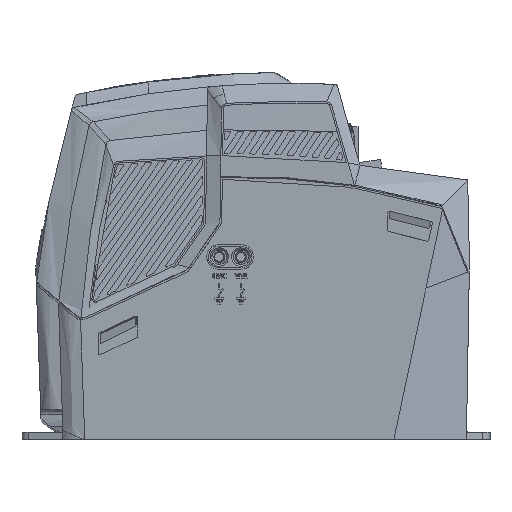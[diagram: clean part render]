
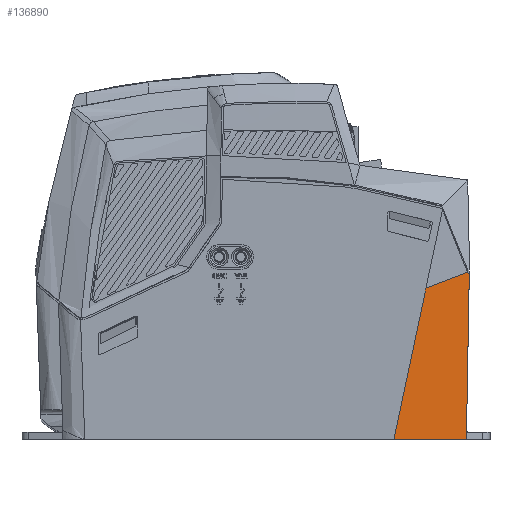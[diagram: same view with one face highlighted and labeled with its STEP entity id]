
A CAD part, left-side view. The second image highlights one B-rep face of the part: STEP entity #136890.
In plain terms, the highlighted free-form (B-spline) face has degree [2, 2] with [4, 4] control points.
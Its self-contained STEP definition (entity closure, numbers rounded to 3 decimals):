
#2 = CARTESIAN_POINT ( 'NONE',  ( -106.717, -2.814, 10.099 ) ) ;
#6267 = CARTESIAN_POINT ( 'NONE',  ( -112.231, 38.182, -20.79 ) ) ;
#7660 = CARTESIAN_POINT ( 'NONE',  ( -112.781, 14.198, 65.96 ) ) ;
#10418 = CARTESIAN_POINT ( 'NONE',  ( -110.007, -3.91, 72.886 ) ) ;
#16354 = EDGE_CURVE ( 'NONE', #238016, #183010, #78427, .T. ) ;
#18310 = CARTESIAN_POINT ( 'NONE',  ( -108.336, -3.353, 40.988 ) ) ;
#25772 = ORIENTED_EDGE ( 'NONE', *, *, #69755, .T. ) ;
#27385 = CARTESIAN_POINT ( 'NONE',  ( -106.881, 7.84, -20.79 ) ) ;
#28721 = B_SPLINE_SURFACE_WITH_KNOTS ( 'NONE', 2, 2, ( 
 ( #52612, #27385, #113152, #6267 ),
 ( #117293, #92021, #263574, #70939 ),
 ( #156704, #75074, #242491, #202999 ),
 ( #10418, #221345, #7660, #96191 ) ),
 .UNSPECIFIED., .F., .F., .F.,
 ( 3, 1, 3 ),
 ( 3, 1, 3 ),
 ( 0., 1.355, 2.711 ),
 ( 0., 0.5, 1. ),
 .UNSPECIFIED. ) ;
#29442 = CARTESIAN_POINT ( 'NONE',  ( -112.231, 38.182, -20.79 ) ) ;
#31081 = CARTESIAN_POINT ( 'NONE',  ( -105.098, -2.275, -20.79 ) ) ;
#31858 = VERTEX_POINT ( 'NONE', #108346 ) ;
#32442 = CARTESIAN_POINT ( 'NONE',  ( -109.853, 24.697, -20.79 ) ) ;
#32588 = VERTEX_POINT ( 'NONE', #131813 ) ;
#36389 = CARTESIAN_POINT ( 'NONE',  ( -110.073, -3.211, 71.877 ) ) ;
#40349 = CARTESIAN_POINT ( 'NONE',  ( -113.213, 26.217, 35.504 ) ) ;
#41189 = CARTESIAN_POINT ( 'NONE',  ( -112.624, 13.178, 66.33 ) ) ;
#42962 = B_SPLINE_CURVE_WITH_KNOTS ( 'NONE', 3,
 ( #31081, #77374, #32442, #99864 ),
 .UNSPECIFIED., .F., .F.,
 ( 4, 4 ),
 ( 0., 1. ),
 .UNSPECIFIED. ) ;
#52612 = CARTESIAN_POINT ( 'NONE',  ( -105.098, -2.275, -20.79 ) ) ;
#54382 = CARTESIAN_POINT ( 'NONE',  ( -110.098, -3.132, 72.073 ) ) ;
#56444 = CARTESIAN_POINT ( 'NONE',  ( -113.705, 20.234, 63.651 ) ) ;
#62282 = CARTESIAN_POINT ( 'NONE',  ( -110.147, -2.975, 72.464 ) ) ;
#69755 = EDGE_CURVE ( 'NONE', #32588, #183010, #255199, .T. ) ;
#70778 = CARTESIAN_POINT ( 'NONE',  ( -112.722, 32.199, 7.357 ) ) ;
#70939 = CARTESIAN_POINT ( 'NONE',  ( -112.6, 33.695, 0.32 ) ) ;
#73312 = CARTESIAN_POINT ( 'NONE',  ( -109.994, -3.665, 71.877 ) ) ;
#74087 = CARTESIAN_POINT ( 'NONE',  ( -110.073, -3.211, 71.877 ) ) ;
#75074 = CARTESIAN_POINT ( 'NONE',  ( -109.919, 3.554, 47.735 ) ) ;
#77374 = CARTESIAN_POINT ( 'NONE',  ( -107.475, 11.211, -20.79 ) ) ;
#78427 = B_SPLINE_CURVE_WITH_KNOTS ( 'NONE', 3,
 ( #214588, #70778, #40349, #155135 ),
 .UNSPECIFIED., .F., .F.,
 ( 4, 4 ),
 ( 0., 1. ),
 .UNSPECIFIED. ) ;
#92021 = CARTESIAN_POINT ( 'NONE',  ( -107.894, 6.411, 2.052 ) ) ;
#93021 = CARTESIAN_POINT ( 'NONE',  ( -110.073, -3.211, 71.877 ) ) ;
#93993 = ORIENTED_EDGE ( 'NONE', *, *, #228186, .F. ) ;
#96191 = CARTESIAN_POINT ( 'NONE',  ( -113.705, 20.234, 63.651 ) ) ;
#99864 = CARTESIAN_POINT ( 'NONE',  ( -112.231, 38.182, -20.79 ) ) ;
#104638 = ORIENTED_EDGE ( 'NONE', *, *, #189392, .T. ) ;
#105855 = CARTESIAN_POINT ( 'NONE',  ( -113.705, 20.234, 63.651 ) ) ;
#107751 = EDGE_LOOP ( 'NONE', ( #25772, #125463, #273264, #93993, #233120, #104638 ) ) ;
#108346 = CARTESIAN_POINT ( 'NONE',  ( -109.955, -3.893, 71.877 ) ) ;
#113152 = CARTESIAN_POINT ( 'NONE',  ( -110.448, 28.068, -20.79 ) ) ;
#114151 = CARTESIAN_POINT ( 'NONE',  ( -109.955, -3.893, 71.877 ) ) ;
#117293 = CARTESIAN_POINT ( 'NONE',  ( -106.325, -2.684, 2.629 ) ) ;
#125463 = ORIENTED_EDGE ( 'NONE', *, *, #16354, .F. ) ;
#127920 = CARTESIAN_POINT ( 'NONE',  ( -105.098, -2.275, -20.79 ) ) ;
#130064 = B_SPLINE_CURVE_WITH_KNOTS ( 'NONE', 3,
 ( #114151, #73312, #228933, #93021 ),
 .UNSPECIFIED., .F., .F.,
 ( 4, 4 ),
 ( 0., 1. ),
 .UNSPECIFIED. ) ;
#131813 = CARTESIAN_POINT ( 'NONE',  ( -110.147, -2.975, 72.464 ) ) ;
#136890 = ADVANCED_FACE ( 'NONE', ( #180554 ), #28721, .T. ) ;
#153659 = EDGE_CURVE ( 'NONE', #31858, #165866, #130064, .T. ) ;
#155135 = CARTESIAN_POINT ( 'NONE',  ( -113.705, 20.234, 63.651 ) ) ;
#156704 = CARTESIAN_POINT ( 'NONE',  ( -108.78, -3.501, 49.467 ) ) ;
#165866 = VERTEX_POINT ( 'NONE', #36389 ) ;
#178631 = EDGE_CURVE ( 'NONE', #183762, #238016, #42962, .T. ) ;
#180554 = FACE_OUTER_BOUND ( 'NONE', #107751, .T. ) ;
#183010 = VERTEX_POINT ( 'NONE', #56444 ) ;
#183762 = VERTEX_POINT ( 'NONE', #226911 ) ;
#183972 = B_SPLINE_CURVE_WITH_KNOTS ( 'NONE', 3,
 ( #233381, #18310, #2, #127920 ),
 .UNSPECIFIED., .F., .F.,
 ( 4, 4 ),
 ( 0., 1. ),
 .UNSPECIFIED. ) ;
#189392 = EDGE_CURVE ( 'NONE', #165866, #32588, #194090, .T. ) ;
#194090 = B_SPLINE_CURVE_WITH_KNOTS ( 'NONE', 3,
 ( #74087, #54382, #268094, #227228 ),
 .UNSPECIFIED., .F., .F.,
 ( 4, 4 ),
 ( 0., 1. ),
 .UNSPECIFIED. ) ;
#202999 = CARTESIAN_POINT ( 'NONE',  ( -113.337, 24.721, 42.541 ) ) ;
#214588 = CARTESIAN_POINT ( 'NONE',  ( -112.231, 38.182, -20.79 ) ) ;
#221345 = CARTESIAN_POINT ( 'NONE',  ( -110.932, 2.126, 70.577 ) ) ;
#226911 = CARTESIAN_POINT ( 'NONE',  ( -105.098, -2.275, -20.79 ) ) ;
#227228 = CARTESIAN_POINT ( 'NONE',  ( -110.147, -2.975, 72.464 ) ) ;
#228186 = EDGE_CURVE ( 'NONE', #31858, #183762, #183972, .T. ) ;
#228933 = CARTESIAN_POINT ( 'NONE',  ( -110.034, -3.438, 71.877 ) ) ;
#232388 = CARTESIAN_POINT ( 'NONE',  ( -111.438, 5.442, 69.268 ) ) ;
#233120 = ORIENTED_EDGE ( 'NONE', *, *, #153659, .T. ) ;
#233381 = CARTESIAN_POINT ( 'NONE',  ( -109.955, -3.893, 71.877 ) ) ;
#238016 = VERTEX_POINT ( 'NONE', #29442 ) ;
#242491 = CARTESIAN_POINT ( 'NONE',  ( -112.198, 17.665, 44.272 ) ) ;
#255199 = B_SPLINE_CURVE_WITH_KNOTS ( 'NONE', 3,
 ( #62282, #232388, #41189, #105855 ),
 .UNSPECIFIED., .F., .F.,
 ( 4, 4 ),
 ( 0., 1. ),
 .UNSPECIFIED. ) ;
#263574 = CARTESIAN_POINT ( 'NONE',  ( -111.031, 24.6, 0.897 ) ) ;
#268094 = CARTESIAN_POINT ( 'NONE',  ( -110.123, -3.053, 72.269 ) ) ;
#273264 = ORIENTED_EDGE ( 'NONE', *, *, #178631, .F. ) ;
